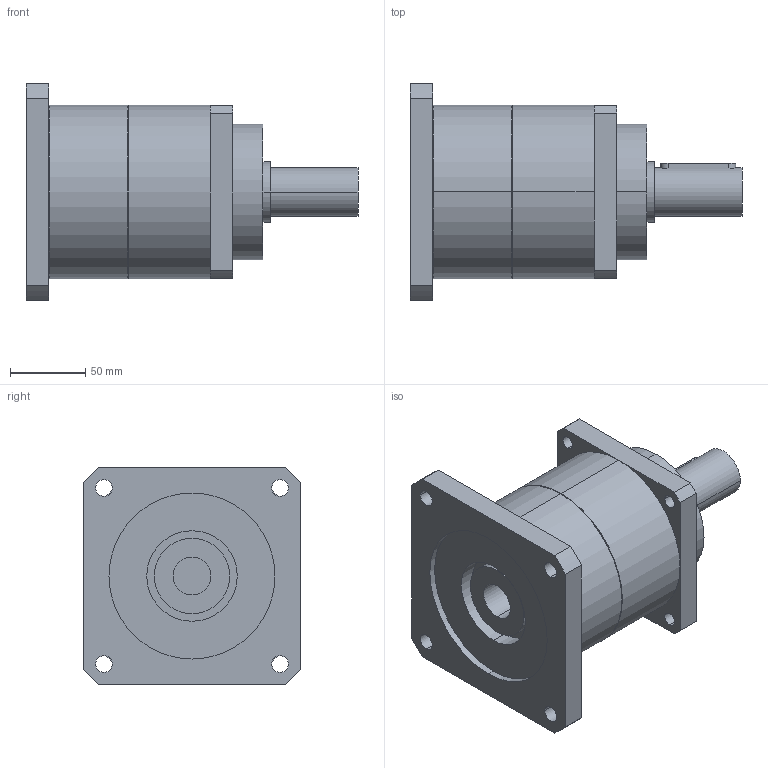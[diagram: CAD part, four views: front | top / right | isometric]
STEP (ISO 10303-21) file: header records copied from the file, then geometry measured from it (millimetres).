
FILE_DESCRIPTION(('CoCreate Modeling STEP Export'),'2;1');
FILE_NAME('GPT120_ig-3-4-5-7-10_32_B5A_25_P22.stp','2015-02-04T17:00:23',(''),(''),'CoCreate Modeling STEP processor for AP214 (Solid Model)','CoCreate Modeling 16.00C 25-Feb-2009 (C) Parametric Technology GmbH','');
FILE_SCHEMA(('AUTOMOTIVE_DESIGN { 1 0 10303 214 1 1 1 1 }'));
Length unit declared in the file: millimetre
Products named in the file (2): GPT120_ig-3-4-5-7-10_32_B5A_25_P22
Assembly tree (1 placements, depth 2):
  GPT120_ig-3-4-5-7-10_32_B5A_25_P22
    GPT120_ig-3-4-5-7-10_32_B5A_25_P22
Bounding box: 220 x 144 x 144 mm (x, y, z)
Volume: 1700258.8 mm3; surface area: 125760.8 mm2
Topology: 1 solids, 1 shells, 77 faces, 201 edges, 136 vertices
Faces by surface type: cylinder 46, plane 27, cone 4
Entity records: 2553 total; most frequent: CARTESIAN_POINT 756, ORIENTED_EDGE 402, DIRECTION 320, EDGE_CURVE 201, VERTEX_POINT 136, AXIS2_PLACEMENT_3D 118, EDGE_LOOP 103, VECTOR 84
